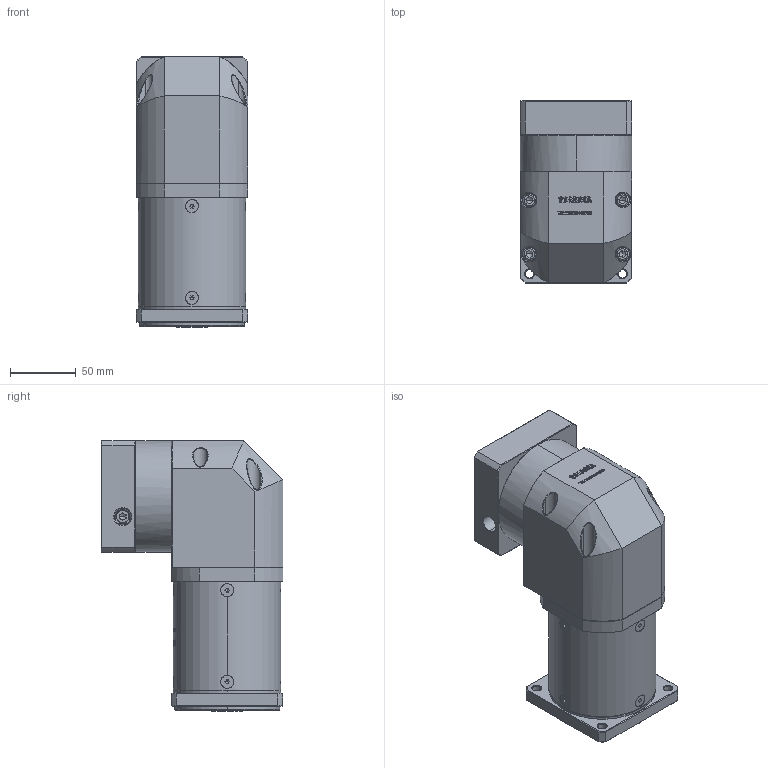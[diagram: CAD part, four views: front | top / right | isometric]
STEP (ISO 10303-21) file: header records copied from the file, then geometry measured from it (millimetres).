
FILE_DESCRIPTION (( 'STEP AP214' ), '1' );
FILE_NAME ('ZFR80-K15-L3-19-80-100-M6.step', '2022-05-08T12:09:06', ( '' ), ( 'Microsoft' ), 'SwSTEP 2.0', 'SolidWorks 2016', '' );
FILE_SCHEMA (( 'AUTOMOTIVE_DESIGN' ));
Length unit declared in the file: millimetre
Products named in the file (1): ZFR80-K15-L3-19-80-100-M6
Bounding box: 85 x 138.6 x 206.5 mm (x, y, z)
Volume: 1446410.9 mm3; surface area: 144642.4 mm2
Topology: 13 solids, 13 shells, 3011 faces, 7916 edges, 5054 vertices
Faces by surface type: plane 1610, bspline 614, cylinder 414, cone 359, torus 14
Entity records: 158873 total; most frequent: CARTESIAN_POINT 56961, ORIENTED_EDGE 15744, DIRECTION 11886, EDGE_CURVE 7872, VERTEX_POINT 5054, VECTOR 4926, LINE 4926, AXIS2_PLACEMENT_3D 3480
